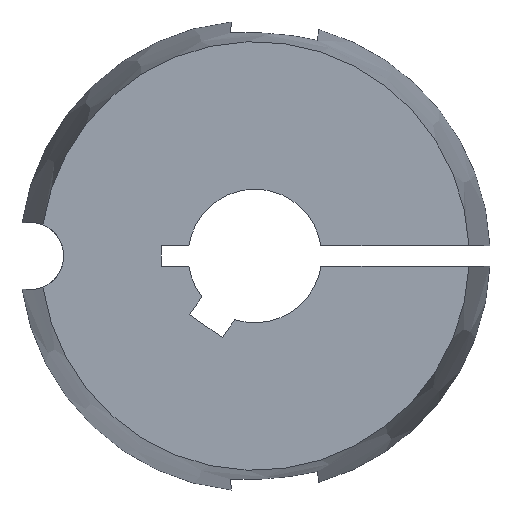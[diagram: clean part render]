
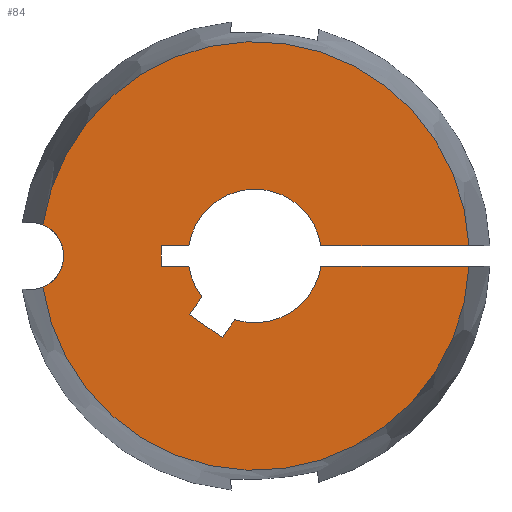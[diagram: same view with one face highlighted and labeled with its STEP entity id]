
A CAD part, left-side view. The second image highlights one B-rep face of the part: STEP entity #84.
In plain terms, the highlighted planar face has unit normal (-1, 0, 0).
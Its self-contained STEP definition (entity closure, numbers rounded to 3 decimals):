
#84 = ADVANCED_FACE( '', ( #114 ), #115, .F. );
#114 = FACE_OUTER_BOUND( '', #154, .T. );
#115 = PLANE( '', #155 );
#154 = EDGE_LOOP( '', ( #251, #252, #253, #254, #255, #256, #257, #258, #259, #260, #261, #262, #263, #264 ) );
#155 = AXIS2_PLACEMENT_3D( '', #265, #266, #267 );
#251 = ORIENTED_EDGE( '', *, *, #349, .T. );
#252 = ORIENTED_EDGE( '', *, *, #381, .F. );
#253 = ORIENTED_EDGE( '', *, *, #352, .T. );
#254 = ORIENTED_EDGE( '', *, *, #365, .T. );
#255 = ORIENTED_EDGE( '', *, *, #363, .T. );
#256 = ORIENTED_EDGE( '', *, *, #360, .T. );
#257 = ORIENTED_EDGE( '', *, *, #369, .T. );
#258 = ORIENTED_EDGE( '', *, *, #382, .T. );
#259 = ORIENTED_EDGE( '', *, *, #383, .T. );
#260 = ORIENTED_EDGE( '', *, *, #384, .T. );
#261 = ORIENTED_EDGE( '', *, *, #385, .T. );
#262 = ORIENTED_EDGE( '', *, *, #386, .T. );
#263 = ORIENTED_EDGE( '', *, *, #354, .T. );
#264 = ORIENTED_EDGE( '', *, *, #387, .F. );
#265 = CARTESIAN_POINT( '', ( -22.3, 0., 0. ) );
#266 = DIRECTION( '', ( 1., 0., 0. ) );
#267 = DIRECTION( '', ( 0., 1., 0. ) );
#349 = EDGE_CURVE( '', #402, #407, #409, .T. );
#352 = EDGE_CURVE( '', #415, #413, #416, .T. );
#354 = EDGE_CURVE( '', #418, #419, #420, .T. );
#360 = EDGE_CURVE( '', #431, #429, #432, .T. );
#363 = EDGE_CURVE( '', #436, #431, #437, .T. );
#365 = EDGE_CURVE( '', #413, #436, #439, .T. );
#369 = EDGE_CURVE( '', #429, #443, #445, .T. );
#381 = EDGE_CURVE( '', #415, #407, #465, .T. );
#382 = EDGE_CURVE( '', #443, #466, #467, .T. );
#383 = EDGE_CURVE( '', #466, #468, #469, .T. );
#384 = EDGE_CURVE( '', #468, #470, #471, .T. );
#385 = EDGE_CURVE( '', #470, #472, #473, .T. );
#386 = EDGE_CURVE( '', #472, #418, #474, .T. );
#387 = EDGE_CURVE( '', #402, #419, #475, .T. );
#402 = VERTEX_POINT( '', #513 );
#407 = VERTEX_POINT( '', #523 );
#409 = CIRCLE( '', #530, 2.55 );
#413 = VERTEX_POINT( '', #535 );
#415 = VERTEX_POINT( '', #538 );
#416 = LINE( '', #539, #540 );
#418 = VERTEX_POINT( '', #548 );
#419 = VERTEX_POINT( '', #549 );
#420 = LINE( '', #550, #551 );
#429 = VERTEX_POINT( '', #569 );
#431 = VERTEX_POINT( '', #572 );
#432 = LINE( '', #573, #574 );
#436 = VERTEX_POINT( '', #580 );
#437 = LINE( '', #581, #582 );
#439 = CIRCLE( '', #585, 5. );
#443 = VERTEX_POINT( '', #590 );
#445 = LINE( '', #593, #594 );
#465 = CIRCLE( '', #617, 16.041 );
#466 = VERTEX_POINT( '', #618 );
#467 = CIRCLE( '', #619, 5. );
#468 = VERTEX_POINT( '', #620 );
#469 = LINE( '', #621, #622 );
#470 = VERTEX_POINT( '', #623 );
#471 = LINE( '', #624, #625 );
#472 = VERTEX_POINT( '', #626 );
#473 = LINE( '', #627, #628 );
#474 = CIRCLE( '', #629, 5. );
#475 = CIRCLE( '', #630, 16.041 );
#513 = CARTESIAN_POINT( '', ( -22.3, 15.868, 2.347 ) );
#523 = CARTESIAN_POINT( '', ( -22.3, 15.868, -2.347 ) );
#530 = AXIS2_PLACEMENT_3D( '', #686, #687, #688 );
#535 = CARTESIAN_POINT( '', ( -22.3, -4.943, -0.75 ) );
#538 = CARTESIAN_POINT( '', ( -22.3, -16.023, -0.75 ) );
#539 = CARTESIAN_POINT( '', ( -22.3, -17.6, -0.75 ) );
#540 = VECTOR( '', #691, 1000. );
#548 = CARTESIAN_POINT( '', ( -22.3, -4.943, 0.75 ) );
#549 = CARTESIAN_POINT( '', ( -22.3, -16.023, 0.75 ) );
#550 = CARTESIAN_POINT( '', ( -22.3, 0., 0.75 ) );
#551 = VECTOR( '', #692, 1000. );
#569 = CARTESIAN_POINT( '', ( -22.3, 4.9, -4.382 ) );
#572 = CARTESIAN_POINT( '', ( -22.3, 2.442, -6.103 ) );
#573 = CARTESIAN_POINT( '', ( -22.3, 2.442, -6.103 ) );
#574 = VECTOR( '', #697, 1000. );
#580 = CARTESIAN_POINT( '', ( -22.3, 1.507, -4.767 ) );
#581 = CARTESIAN_POINT( '', ( -22.3, 1.507, -4.767 ) );
#582 = VECTOR( '', #700, 1000. );
#585 = AXIS2_PLACEMENT_3D( '', #702, #703, #704 );
#590 = CARTESIAN_POINT( '', ( -22.3, 3.965, -3.047 ) );
#593 = CARTESIAN_POINT( '', ( -22.3, 4.9, -4.382 ) );
#594 = VECTOR( '', #710, 1000. );
#617 = AXIS2_PLACEMENT_3D( '', #738, #739, #740 );
#618 = CARTESIAN_POINT( '', ( -22.3, 4.943, -0.75 ) );
#619 = AXIS2_PLACEMENT_3D( '', #741, #742, #743 );
#620 = CARTESIAN_POINT( '', ( -22.3, 7., -0.75 ) );
#621 = CARTESIAN_POINT( '', ( -22.3, 0., -0.75 ) );
#622 = VECTOR( '', #744, 1000. );
#623 = CARTESIAN_POINT( '', ( -22.3, 7., 0.75 ) );
#624 = CARTESIAN_POINT( '', ( -22.3, 7., -0.75 ) );
#625 = VECTOR( '', #745, 1000. );
#626 = CARTESIAN_POINT( '', ( -22.3, 4.943, 0.75 ) );
#627 = CARTESIAN_POINT( '', ( -22.3, 7., 0.75 ) );
#628 = VECTOR( '', #746, 1000. );
#629 = AXIS2_PLACEMENT_3D( '', #747, #748, #749 );
#630 = AXIS2_PLACEMENT_3D( '', #750, #751, #752 );
#686 = CARTESIAN_POINT( '', ( -22.3, 16.865, 0. ) );
#687 = DIRECTION( '', ( 1., 0., 0. ) );
#688 = DIRECTION( '', ( 0., 1., 0. ) );
#691 = DIRECTION( '', ( 0., 1., 0. ) );
#692 = DIRECTION( '', ( 0., -1., 0. ) );
#697 = DIRECTION( '', ( 0., 0.819, 0.574 ) );
#700 = DIRECTION( '', ( 0., 0.574, -0.819 ) );
#702 = CARTESIAN_POINT( '', ( -22.3, 0., 0. ) );
#703 = DIRECTION( '', ( 1., 0., 0. ) );
#704 = DIRECTION( '', ( 0., 0., -1. ) );
#710 = DIRECTION( '', ( 0., -0.574, 0.819 ) );
#738 = CARTESIAN_POINT( '', ( -22.3, 0., 0. ) );
#739 = DIRECTION( '', ( 1., 0., 0. ) );
#740 = DIRECTION( '', ( 0., 1., 0. ) );
#741 = CARTESIAN_POINT( '', ( -22.3, 0., 0. ) );
#742 = DIRECTION( '', ( 1., 0., 0. ) );
#743 = DIRECTION( '', ( 0., 0., -1. ) );
#744 = DIRECTION( '', ( 0., 1., 0. ) );
#745 = DIRECTION( '', ( 0., 0., 1. ) );
#746 = DIRECTION( '', ( 0., -1., 0. ) );
#747 = CARTESIAN_POINT( '', ( -22.3, 0., 0. ) );
#748 = DIRECTION( '', ( 1., 0., 0. ) );
#749 = DIRECTION( '', ( 0., 0., -1. ) );
#750 = CARTESIAN_POINT( '', ( -22.3, 0., 0. ) );
#751 = DIRECTION( '', ( 1., 0., 0. ) );
#752 = DIRECTION( '', ( 0., 1., 0. ) );
